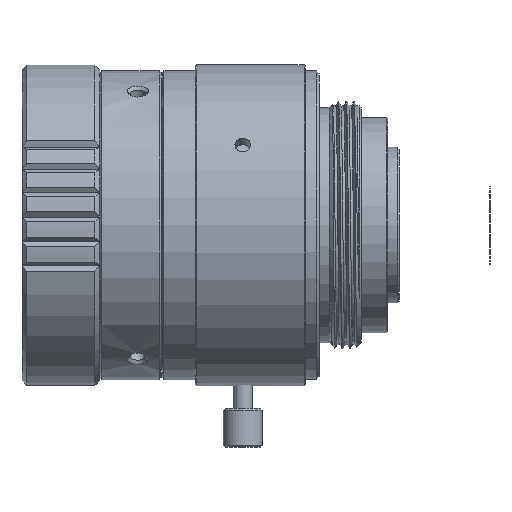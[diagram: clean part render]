
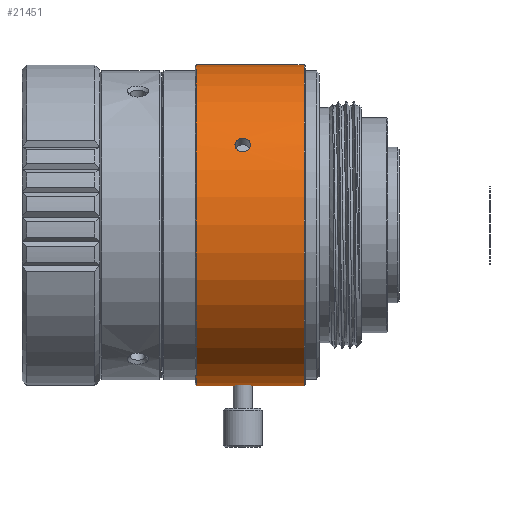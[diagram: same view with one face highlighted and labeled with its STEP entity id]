
A CAD part, left-side view. The second image highlights one B-rep face of the part: STEP entity #21451.
In plain terms, the highlighted cylindrical face has radius 16.5 mm (diameter 33 mm), a partial arc.
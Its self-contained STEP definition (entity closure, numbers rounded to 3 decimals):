
#20932=CARTESIAN_POINT('',(0.,-5.7,-16.5));
#20946=CARTESIAN_POINT('',(0.,-4.1,-16.5));
#20991=CARTESIAN_POINT('',(0.,-4.1,-16.5));
#20992=CARTESIAN_POINT('',(-0.071,-4.1,-16.5));
#20993=CARTESIAN_POINT('',(-0.207,-4.118,
-16.499));
#20994=CARTESIAN_POINT('',(-0.404,-4.199,
-16.495));
#20995=CARTESIAN_POINT('',(-0.572,-4.327,
-16.49));
#20996=CARTESIAN_POINT('',(-0.701,-4.495,
-16.485));
#20997=CARTESIAN_POINT('',(-0.782,-4.69,
-16.482));
#20998=CARTESIAN_POINT('',(-0.809,-4.901,
-16.48));
#20999=CARTESIAN_POINT('',(-0.782,-5.11,
-16.482));
#21000=CARTESIAN_POINT('',(-0.7,-5.306,
-16.485));
#21001=CARTESIAN_POINT('',(-0.572,-5.473,
-16.49));
#21002=CARTESIAN_POINT('',(-0.403,-5.602,
-16.495));
#21003=CARTESIAN_POINT('',(-0.207,-5.682,
-16.499));
#21004=CARTESIAN_POINT('',(-0.071,-5.7,-16.5));
#21005=CARTESIAN_POINT('',(0.,-5.7,-16.5));
#21007=DIRECTION('',(0.,1.,0.));
#21008=VECTOR('',#21007,4.);
#21009=CARTESIAN_POINT('',(0.,-4.1,-16.5));
#21010=LINE('',#21009,#21008);
#21011=CARTESIAN_POINT('',(0.,-0.1,0.));
#21012=DIRECTION('',(0.,1.,0.));
#21013=DIRECTION('',(0.,0.,-1.));
#21014=AXIS2_PLACEMENT_3D('',#21011,#21012,#21013);
#21016=DIRECTION('',(0.,1.,0.));
#21017=VECTOR('',#21016,11.1);
#21018=CARTESIAN_POINT('',(0.,-11.2,
16.5));
#21019=LINE('',#21018,#21017);
#21020=CARTESIAN_POINT('',(0.,-11.2,0.));
#21021=DIRECTION('',(0.,1.,0.));
#21022=DIRECTION('',(0.,0.,-1.));
#21023=AXIS2_PLACEMENT_3D('',#21020,#21021,#21022);
#21025=DIRECTION('',(0.,1.,0.));
#21026=VECTOR('',#21025,5.5);
#21027=CARTESIAN_POINT('',(0.,-11.2,
-16.5));
#21028=LINE('',#21027,#21026);
#21029=CARTESIAN_POINT('',(-14.289,-5.7,8.25));
#21030=CARTESIAN_POINT('',(-14.327,-5.7,8.186));
#21031=CARTESIAN_POINT('',(-14.397,-5.68,
8.061));
#21032=CARTESIAN_POINT('',(-14.497,-5.591,
7.881));
#21033=CARTESIAN_POINT('',(-14.577,-5.451,
7.73));
#21034=CARTESIAN_POINT('',(-14.637,-5.268,
7.617));
#21035=CARTESIAN_POINT('',(-14.671,-5.05,
7.551));
#21036=CARTESIAN_POINT('',(-14.676,-4.835,
7.542));
#21037=CARTESIAN_POINT('',(-14.656,-4.636,
7.58));
#21038=CARTESIAN_POINT('',(-14.617,-4.461,
7.655));
#21039=CARTESIAN_POINT('',(-14.557,-4.308,
7.769));
#21040=CARTESIAN_POINT('',(-14.479,-4.19,
7.913));
#21041=CARTESIAN_POINT('',(-14.386,-4.115,
8.082));
#21042=CARTESIAN_POINT('',(-14.322,-4.1,8.193));
#21043=CARTESIAN_POINT('',(-14.289,-4.1,8.25));
#21045=CARTESIAN_POINT('',(-14.289,-4.1,8.25));
#21046=CARTESIAN_POINT('',(-14.258,-4.1,8.304));
#21047=CARTESIAN_POINT('',(-14.196,-4.114,
8.411));
#21048=CARTESIAN_POINT('',(-14.097,-4.185,
8.576));
#21049=CARTESIAN_POINT('',(-14.012,-4.299,
8.713));
#21050=CARTESIAN_POINT('',(-13.943,-4.448,
8.823));
#21051=CARTESIAN_POINT('',(-13.895,-4.623,
8.899));
#21052=CARTESIAN_POINT('',(-13.87,-4.82,
8.937));
#21053=CARTESIAN_POINT('',(-13.873,-5.014,
8.933));
#21054=CARTESIAN_POINT('',(-13.9,-5.203,
8.89));
#21055=CARTESIAN_POINT('',(-13.95,-5.37,
8.812));
#21056=CARTESIAN_POINT('',(-14.019,-5.511,
8.703));
#21057=CARTESIAN_POINT('',(-14.102,-5.619,
8.567));
#21058=CARTESIAN_POINT('',(-14.197,-5.686,
8.408));
#21059=CARTESIAN_POINT('',(-14.259,-5.7,8.304));
#21060=CARTESIAN_POINT('',(-14.289,-5.7,8.25));
#21126=CARTESIAN_POINT('',(0.,-0.1,-16.5));
#21127=CARTESIAN_POINT('',(0.,-0.1,16.5));
#21128=VERTEX_POINT('',#21126);
#21129=VERTEX_POINT('',#21127);
#21130=CARTESIAN_POINT('',(0.,-11.2,16.5));
#21131=CARTESIAN_POINT('',(0.,-11.2,-16.5));
#21132=VERTEX_POINT('',#21130);
#21133=VERTEX_POINT('',#21131);
#21140=VERTEX_POINT('',#20932);
#21141=VERTEX_POINT('',#20946);
#21148=VERTEX_POINT('',#21029);
#21149=VERTEX_POINT('',#21043);
#21430=CARTESIAN_POINT('',(0.,0.565,0.));
#21431=DIRECTION('',(0.,-1.,0.));
#21432=DIRECTION('',(0.,0.,1.));
#21433=AXIS2_PLACEMENT_3D('',#21430,#21431,#21432);
#21434=CYLINDRICAL_SURFACE('',#21433,16.5);
#21435=ORIENTED_EDGE('',*,*,#21304,.F.);
#21436=ORIENTED_EDGE('',*,*,#21419,.T.);
#21438=ORIENTED_EDGE('',*,*,#21437,.T.);
#21439=ORIENTED_EDGE('',*,*,#21415,.F.);
#21441=ORIENTED_EDGE('',*,*,#21440,.F.);
#21442=ORIENTED_EDGE('',*,*,#21412,.T.);
#21443=EDGE_LOOP('',(#21435,#21436,#21438,#21439,#21441,#21442));
#21444=FACE_OUTER_BOUND('',#21443,.F.);
#21446=ORIENTED_EDGE('',*,*,#21445,.F.);
#21448=ORIENTED_EDGE('',*,*,#21447,.F.);
#21449=EDGE_LOOP('',(#21446,#21448));
#21450=FACE_BOUND('',#21449,.F.);
#21451=ADVANCED_FACE('',(#21444,#21450),#21434,.T.);
#21006=B_SPLINE_CURVE_WITH_KNOTS('',3,(#20991,#20992,#20993,#20994,#20995,
#20996,#20997,#20998,#20999,#21000,#21001,#21002,#21003,#21004,#21005),
.UNSPECIFIED.,.F.,.F.,(4,1,1,1,1,1,1,1,1,1,1,1,4),(0.,0.083,
0.167,0.25,0.333,0.417,0.5,
0.583,0.667,0.75,0.833,0.917,
1.),.UNSPECIFIED.);
#21015=CIRCLE('',#21014,16.5);
#21024=CIRCLE('',#21023,16.5);
#21044=B_SPLINE_CURVE_WITH_KNOTS('',3,(#21029,#21030,#21031,#21032,#21033,
#21034,#21035,#21036,#21037,#21038,#21039,#21040,#21041,#21042,#21043),
.UNSPECIFIED.,.F.,.F.,(4,1,1,1,1,1,1,1,1,1,1,1,4),(0.,0.083,
0.167,0.25,0.333,0.417,0.5,
0.583,0.667,0.75,0.833,0.917,
1.),.UNSPECIFIED.);
#21061=B_SPLINE_CURVE_WITH_KNOTS('',3,(#21045,#21046,#21047,#21048,#21049,
#21050,#21051,#21052,#21053,#21054,#21055,#21056,#21057,#21058,#21059,#21060),
.UNSPECIFIED.,.F.,.F.,(4,1,1,1,1,1,1,1,1,1,1,1,1,4),(0.,0.077,
0.154,0.231,0.308,0.385,
0.462,0.538,0.615,0.692,
0.769,0.846,0.923,1.),.UNSPECIFIED.);
#21304=EDGE_CURVE('',#21141,#21140,#21006,.T.);
#21412=EDGE_CURVE('',#21133,#21140,#21028,.T.);
#21415=EDGE_CURVE('',#21132,#21129,#21019,.T.);
#21419=EDGE_CURVE('',#21141,#21128,#21010,.T.);
#21437=EDGE_CURVE('',#21128,#21129,#21015,.T.);
#21440=EDGE_CURVE('',#21133,#21132,#21024,.T.);
#21445=EDGE_CURVE('',#21148,#21149,#21044,.T.);
#21447=EDGE_CURVE('',#21149,#21148,#21061,.T.);
